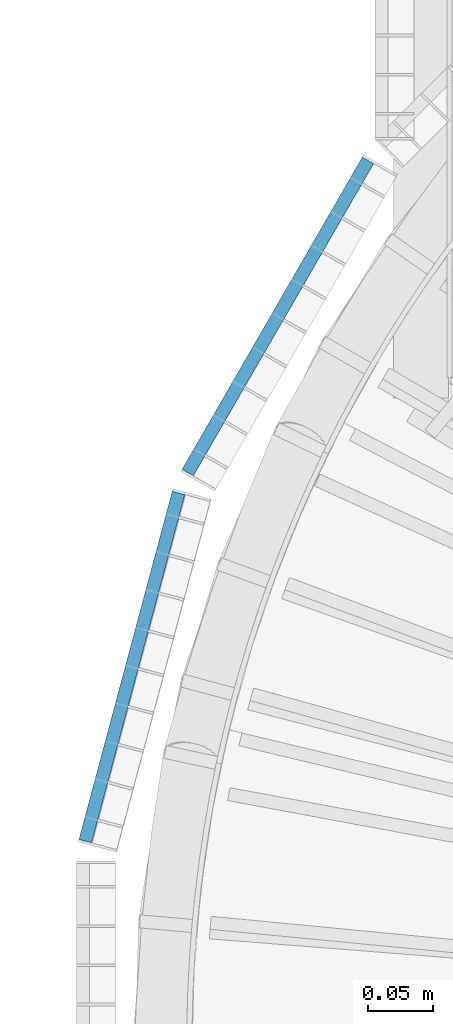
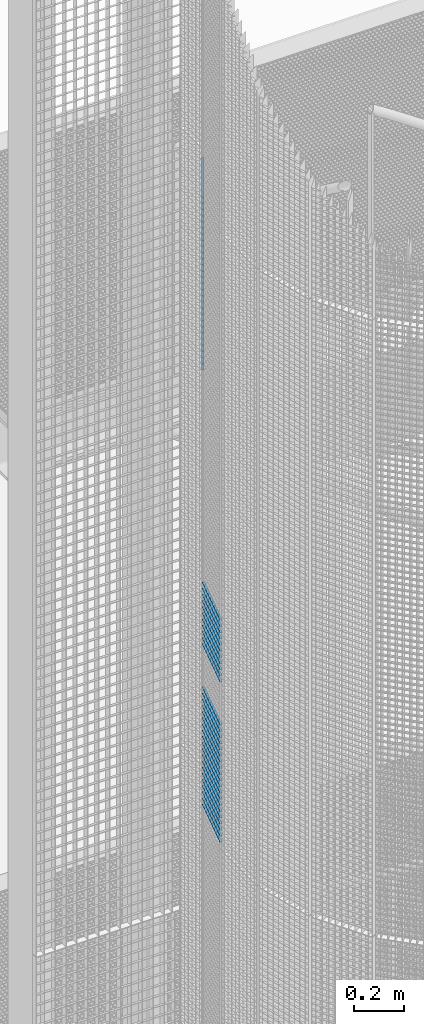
# One storey, part 185 of 1148: 60 beams, 2 elements without a shape of their own.
"""IFC2X3 building model written with IfcOpenShell, lengths in millimetres."""

from ifc_helpers import new_model, si_unit, frame, origin_with_axes, origin_2d_with_axis, place, context, subcontext, project, spatial, rectangle, extrude, material, type_object, element, aggregate, save


model = new_model("IFC2X3")

# Units and contexts
model_context = context("Model", 3, precision=1e-05, world=origin_with_axes())
body_context = subcontext(model_context, "Body", "Model", "MODEL_VIEW")
ifc_project = project(units=[si_unit("LENGTHUNIT", "METRE", prefix="MILLI"), si_unit("AREAUNIT", "SQUARE_METRE"), si_unit("VOLUMEUNIT", "CUBIC_METRE"), si_unit("MASSUNIT", "GRAM", prefix="KILO"), si_unit("TIMEUNIT", "SECOND"), si_unit("PLANEANGLEUNIT", "RADIAN"), si_unit("SOLIDANGLEUNIT", "STERADIAN"), si_unit("THERMODYNAMICTEMPERATUREUNIT", "DEGREE_CELSIUS"), si_unit("LUMINOUSINTENSITYUNIT", "LUMEN")], contexts=[model_context])

# Site, building, storey
site_placement = place(None, origin_with_axes())
site = spatial("IfcSite", under=ifc_project, at=site_placement, Name="Undefined", CompositionType="ELEMENT")
building_placement = place(site_placement, origin_with_axes())
building = spatial("IfcBuilding", under=site, at=building_placement, Name="Undefined", CompositionType="ELEMENT")
storey_placement = place(building_placement, origin_with_axes())
storey = spatial("IfcBuildingStorey", under=building, at=storey_placement, Name="Undefined", CompositionType="ELEMENT", Elevation=0.0)

# Assembly, beams
assembly_1_placement = place(storey_placement, origin_with_axes())
assembly_1 = element("IfcElementAssembly", 1, at=assembly_1_placement, inside=storey, Name="BORDURE", AssemblyPlace="NOTDEFINED", PredefinedType="NOTDEFINED")
ifc_material = material(Name="STEEL/S235JR")
beam_type = type_object("IfcBeamType", Name="PL2*10", PredefinedType="NOTDEFINED")
beam_1_placement = place(assembly_1_placement, frame((-1040.30888419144, 421.618038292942, 12600.0), z_axis=(-0.965925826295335, 0.258819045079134, 0.0), x_axis=(-0.258819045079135, -0.965925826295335, 0.0)))
beam_1 = element("IfcBeam", 2, at=beam_1_placement, type_object=beam_type, material=ifc_material, Name="ENTRETOISE", context=body_context, shape_type="SweptSolid", body=[
    extrude(rectangle(XDim=2.0, YDim=10.0, at=origin_2d_with_axis()), frame((275.999999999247, 9.09494701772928e-13, 1.53210777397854e-14), z_axis=(-1.0, 0.0, 0.0), x_axis=(0.0, -1.0, 0.0)), (0.0, 0.0, 1.0), 276.0),
])
beam_2_placement = place(assembly_1_placement, frame((-1040.30888419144, 421.618038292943, 12810.0), z_axis=(-0.965925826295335, 0.258819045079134, 0.0), x_axis=(-0.258819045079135, -0.965925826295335, 0.0)))
beam_2 = element("IfcBeam", 3, at=beam_2_placement, type_object=beam_type, material=ifc_material, Name="ENTRETOISE", context=body_context, shape_type="SweptSolid", body=[
    extrude(rectangle(XDim=2.0, YDim=10.0, at=origin_2d_with_axis()), frame((275.999999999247, 9.09494701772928e-13, 1.53210777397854e-14), z_axis=(-1.0, 0.0, 0.0), x_axis=(0.0, -1.0, 0.0)), (0.0, 0.0, 1.0), 276.0),
])
beam_3_placement = place(assembly_1_placement, frame((-1040.30888419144, 421.618038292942, 12570.0), z_axis=(-0.965925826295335, 0.258819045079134, 0.0), x_axis=(-0.258819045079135, -0.965925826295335, 0.0)))
beam_3 = element("IfcBeam", 4, at=beam_3_placement, type_object=beam_type, material=ifc_material, Name="ENTRETOISE", context=body_context, shape_type="SweptSolid", body=[
    extrude(rectangle(XDim=2.0, YDim=10.0, at=origin_2d_with_axis()), frame((275.999999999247, 9.09494701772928e-13, 1.53210777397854e-14), z_axis=(-1.0, 0.0, 0.0), x_axis=(0.0, -1.0, 0.0)), (0.0, 0.0, 1.0), 276.0),
])
beam_4_placement = place(assembly_1_placement, frame((-1040.30888419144, 421.618038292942, 12540.0), z_axis=(-0.965925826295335, 0.258819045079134, 0.0), x_axis=(-0.258819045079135, -0.965925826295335, 0.0)))
beam_4 = element("IfcBeam", 5, at=beam_4_placement, type_object=beam_type, material=ifc_material, Name="ENTRETOISE", context=body_context, shape_type="SweptSolid", body=[
    extrude(rectangle(XDim=2.0, YDim=10.0, at=origin_2d_with_axis()), frame((275.999999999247, 9.09494701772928e-13, 1.53210777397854e-14), z_axis=(-1.0, 0.0, 0.0), x_axis=(0.0, -1.0, 0.0)), (0.0, 0.0, 1.0), 276.0),
])
beam_5_placement = place(assembly_1_placement, frame((-1040.30888419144, 421.618038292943, 12840.0), z_axis=(-0.965925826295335, 0.258819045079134, 0.0), x_axis=(-0.258819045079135, -0.965925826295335, 0.0)))
beam_5 = element("IfcBeam", 6, at=beam_5_placement, type_object=beam_type, material=ifc_material, Name="ENTRETOISE", context=body_context, shape_type="SweptSolid", body=[
    extrude(rectangle(XDim=2.0, YDim=10.0, at=origin_2d_with_axis()), frame((275.999999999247, 9.09494701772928e-13, 1.53210777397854e-14), z_axis=(-1.0, 0.0, 0.0), x_axis=(0.0, -1.0, 0.0)), (0.0, 0.0, 1.0), 276.0),
])
beam_6_placement = place(assembly_1_placement, frame((-1040.30888419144, 421.618038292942, 12510.0), z_axis=(-0.965925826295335, 0.258819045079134, 0.0), x_axis=(-0.258819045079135, -0.965925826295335, 0.0)))
beam_6 = element("IfcBeam", 7, at=beam_6_placement, type_object=beam_type, material=ifc_material, Name="ENTRETOISE", context=body_context, shape_type="SweptSolid", body=[
    extrude(rectangle(XDim=2.0, YDim=10.0, at=origin_2d_with_axis()), frame((275.999999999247, 9.09494701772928e-13, 1.53210777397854e-14), z_axis=(-1.0, 0.0, 0.0), x_axis=(0.0, -1.0, 0.0)), (0.0, 0.0, 1.0), 276.0),
])
beam_7_placement = place(assembly_1_placement, frame((-1040.30888419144, 421.618038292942, 12480.0), z_axis=(-0.965925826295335, 0.258819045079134, 0.0), x_axis=(-0.258819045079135, -0.965925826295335, 0.0)))
beam_7 = element("IfcBeam", 8, at=beam_7_placement, type_object=beam_type, material=ifc_material, Name="ENTRETOISE", context=body_context, shape_type="SweptSolid", body=[
    extrude(rectangle(XDim=2.0, YDim=10.0, at=origin_2d_with_axis()), frame((275.999999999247, 9.09494701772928e-13, 1.53210777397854e-14), z_axis=(-1.0, 0.0, 0.0), x_axis=(0.0, -1.0, 0.0)), (0.0, 0.0, 1.0), 276.0),
])
beam_8_placement = place(assembly_1_placement, frame((-1040.30888419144, 421.618038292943, 12870.0), z_axis=(-0.965925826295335, 0.258819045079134, 0.0), x_axis=(-0.258819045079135, -0.965925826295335, 0.0)))
beam_8 = element("IfcBeam", 9, at=beam_8_placement, type_object=beam_type, material=ifc_material, Name="ENTRETOISE", context=body_context, shape_type="SweptSolid", body=[
    extrude(rectangle(XDim=2.0, YDim=10.0, at=origin_2d_with_axis()), frame((275.999999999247, 9.09494701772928e-13, 1.53210777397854e-14), z_axis=(-1.0, 0.0, 0.0), x_axis=(0.0, -1.0, 0.0)), (0.0, 0.0, 1.0), 276.0),
])
beam_9_placement = place(assembly_1_placement, frame((-1040.30888419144, 421.618038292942, 12450.0), z_axis=(-0.965925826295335, 0.258819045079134, 0.0), x_axis=(-0.258819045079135, -0.965925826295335, 0.0)))
beam_9 = element("IfcBeam", 10, at=beam_9_placement, type_object=beam_type, material=ifc_material, Name="ENTRETOISE", context=body_context, shape_type="SweptSolid", body=[
    extrude(rectangle(XDim=2.0, YDim=10.0, at=origin_2d_with_axis()), frame((275.999999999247, 9.09494701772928e-13, 1.53210777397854e-14), z_axis=(-1.0, 0.0, 0.0), x_axis=(0.0, -1.0, 0.0)), (0.0, 0.0, 1.0), 276.0),
])
beam_10_placement = place(assembly_1_placement, frame((-1040.30888419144, 421.618038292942, 12420.0), z_axis=(-0.965925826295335, 0.258819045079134, 0.0), x_axis=(-0.258819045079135, -0.965925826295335, 0.0)))
beam_10 = element("IfcBeam", 11, at=beam_10_placement, type_object=beam_type, material=ifc_material, Name="ENTRETOISE", context=body_context, shape_type="SweptSolid", body=[
    extrude(rectangle(XDim=2.0, YDim=10.0, at=origin_2d_with_axis()), frame((275.999999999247, 9.09494701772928e-13, 1.53210777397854e-14), z_axis=(-1.0, 0.0, 0.0), x_axis=(0.0, -1.0, 0.0)), (0.0, 0.0, 1.0), 276.0),
])
beam_11_placement = place(assembly_1_placement, frame((-1040.30888419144, 421.618038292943, 12900.0), z_axis=(-0.965925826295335, 0.258819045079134, 0.0), x_axis=(-0.258819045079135, -0.965925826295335, 0.0)))
beam_11 = element("IfcBeam", 12, at=beam_11_placement, type_object=beam_type, material=ifc_material, Name="ENTRETOISE", context=body_context, shape_type="SweptSolid", body=[
    extrude(rectangle(XDim=2.0, YDim=10.0, at=origin_2d_with_axis()), frame((275.999999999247, 9.09494701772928e-13, 1.53210777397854e-14), z_axis=(-1.0, 0.0, 0.0), x_axis=(0.0, -1.0, 0.0)), (0.0, 0.0, 1.0), 276.0),
])
beam_12_placement = place(assembly_1_placement, frame((-1040.30888419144, 421.618038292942, 12390.0), z_axis=(-0.965925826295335, 0.258819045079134, 0.0), x_axis=(-0.258819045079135, -0.965925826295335, 0.0)))
beam_12 = element("IfcBeam", 13, at=beam_12_placement, type_object=beam_type, material=ifc_material, Name="ENTRETOISE", context=body_context, shape_type="SweptSolid", body=[
    extrude(rectangle(XDim=2.0, YDim=10.0, at=origin_2d_with_axis()), frame((275.999999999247, 9.09494701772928e-13, 1.53210777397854e-14), z_axis=(-1.0, 0.0, 0.0), x_axis=(0.0, -1.0, 0.0)), (0.0, 0.0, 1.0), 276.0),
])
beam_13_placement = place(assembly_1_placement, frame((-1040.30888419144, 421.618038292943, 12930.0), z_axis=(-0.965925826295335, 0.258819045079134, 0.0), x_axis=(-0.258819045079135, -0.965925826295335, 0.0)))
beam_13 = element("IfcBeam", 14, at=beam_13_placement, type_object=beam_type, material=ifc_material, Name="ENTRETOISE", context=body_context, shape_type="SweptSolid", body=[
    extrude(rectangle(XDim=2.0, YDim=10.0, at=origin_2d_with_axis()), frame((275.999999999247, 9.09494701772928e-13, 1.53210777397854e-14), z_axis=(-1.0, 0.0, 0.0), x_axis=(0.0, -1.0, 0.0)), (0.0, 0.0, 1.0), 276.0),
])
beam_14_placement = place(assembly_1_placement, frame((-1040.30888419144, 421.618038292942, 12360.0), z_axis=(-0.965925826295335, 0.258819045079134, 0.0), x_axis=(-0.258819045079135, -0.965925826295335, 0.0)))
beam_14 = element("IfcBeam", 15, at=beam_14_placement, type_object=beam_type, material=ifc_material, Name="ENTRETOISE", context=body_context, shape_type="SweptSolid", body=[
    extrude(rectangle(XDim=2.0, YDim=10.0, at=origin_2d_with_axis()), frame((275.999999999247, 9.09494701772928e-13, 1.53210777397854e-14), z_axis=(-1.0, 0.0, 0.0), x_axis=(0.0, -1.0, 0.0)), (0.0, 0.0, 1.0), 276.0),
])
beam_15_placement = place(assembly_1_placement, frame((-1040.30888419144, 421.618038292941, 12330.0), z_axis=(-0.965925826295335, 0.258819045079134, 0.0), x_axis=(-0.258819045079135, -0.965925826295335, 0.0)))
beam_15 = element("IfcBeam", 16, at=beam_15_placement, type_object=beam_type, material=ifc_material, Name="ENTRETOISE", context=body_context, shape_type="SweptSolid", body=[
    extrude(rectangle(XDim=2.0, YDim=10.0, at=origin_2d_with_axis()), frame((275.999999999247, 9.09494701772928e-13, 1.53210777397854e-14), z_axis=(-1.0, 0.0, 0.0), x_axis=(0.0, -1.0, 0.0)), (0.0, 0.0, 1.0), 276.0),
])
beam_16_placement = place(assembly_1_placement, frame((-1040.30888419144, 421.618038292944, 12960.0), z_axis=(-0.965925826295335, 0.258819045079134, 0.0), x_axis=(-0.258819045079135, -0.965925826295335, 0.0)))
beam_16 = element("IfcBeam", 17, at=beam_16_placement, type_object=beam_type, material=ifc_material, Name="ENTRETOISE", context=body_context, shape_type="SweptSolid", body=[
    extrude(rectangle(XDim=2.0, YDim=10.0, at=origin_2d_with_axis()), frame((275.999999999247, 9.09494701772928e-13, 1.53210777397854e-14), z_axis=(-1.0, 0.0, 0.0), x_axis=(0.0, -1.0, 0.0)), (0.0, 0.0, 1.0), 276.0),
])
beam_17_placement = place(assembly_1_placement, frame((-1040.30888419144, 421.618038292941, 12300.0), z_axis=(-0.965925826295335, 0.258819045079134, 0.0), x_axis=(-0.258819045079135, -0.965925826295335, 0.0)))
beam_17 = element("IfcBeam", 18, at=beam_17_placement, type_object=beam_type, material=ifc_material, Name="ENTRETOISE", context=body_context, shape_type="SweptSolid", body=[
    extrude(rectangle(XDim=2.0, YDim=10.0, at=origin_2d_with_axis()), frame((275.999999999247, 9.09494701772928e-13, 1.53210777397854e-14), z_axis=(-1.0, 0.0, 0.0), x_axis=(0.0, -1.0, 0.0)), (0.0, 0.0, 1.0), 276.0),
])
beam_18_placement = place(assembly_1_placement, frame((-1040.30888419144, 421.618038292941, 12270.0), z_axis=(-0.965925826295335, 0.258819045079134, 0.0), x_axis=(-0.258819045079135, -0.965925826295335, 0.0)))
beam_18 = element("IfcBeam", 19, at=beam_18_placement, type_object=beam_type, material=ifc_material, Name="ENTRETOISE", context=body_context, shape_type="SweptSolid", body=[
    extrude(rectangle(XDim=2.0, YDim=10.0, at=origin_2d_with_axis()), frame((275.999999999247, 9.09494701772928e-13, 1.53210777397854e-14), z_axis=(-1.0, 0.0, 0.0), x_axis=(0.0, -1.0, 0.0)), (0.0, 0.0, 1.0), 276.0),
])
beam_19_placement = place(assembly_1_placement, frame((-1040.30888419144, 421.618038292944, 12990.0), z_axis=(-0.965925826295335, 0.258819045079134, 0.0), x_axis=(-0.258819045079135, -0.965925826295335, 0.0)))
beam_19 = element("IfcBeam", 20, at=beam_19_placement, type_object=beam_type, material=ifc_material, Name="ENTRETOISE", context=body_context, shape_type="SweptSolid", body=[
    extrude(rectangle(XDim=2.0, YDim=10.0, at=origin_2d_with_axis()), frame((275.999999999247, 9.09494701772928e-13, 1.53210777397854e-14), z_axis=(-1.0, 0.0, 0.0), x_axis=(0.0, -1.0, 0.0)), (0.0, 0.0, 1.0), 276.0),
])
beam_20_placement = place(assembly_1_placement, frame((-1040.30888419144, 421.618038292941, 12240.0), z_axis=(-0.965925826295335, 0.258819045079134, 0.0), x_axis=(-0.258819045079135, -0.965925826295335, 0.0)))
beam_20 = element("IfcBeam", 21, at=beam_20_placement, type_object=beam_type, material=ifc_material, Name="ENTRETOISE", context=body_context, shape_type="SweptSolid", body=[
    extrude(rectangle(XDim=2.0, YDim=10.0, at=origin_2d_with_axis()), frame((275.999999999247, 9.09494701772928e-13, 1.53210777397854e-14), z_axis=(-1.0, 0.0, 0.0), x_axis=(0.0, -1.0, 0.0)), (0.0, 0.0, 1.0), 276.0),
])
beam_21_placement = place(assembly_1_placement, frame((-1040.30888419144, 421.618038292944, 13020.0), z_axis=(-0.965925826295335, 0.258819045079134, 0.0), x_axis=(-0.258819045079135, -0.965925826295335, 0.0)))
beam_21 = element("IfcBeam", 22, at=beam_21_placement, type_object=beam_type, material=ifc_material, Name="ENTRETOISE", context=body_context, shape_type="SweptSolid", body=[
    extrude(rectangle(XDim=2.0, YDim=10.0, at=origin_2d_with_axis()), frame((275.999999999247, 9.09494701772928e-13, 1.53210777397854e-14), z_axis=(-1.0, 0.0, 0.0), x_axis=(0.0, -1.0, 0.0)), (0.0, 0.0, 1.0), 276.0),
])
beam_22_placement = place(assembly_1_placement, frame((-1040.30888419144, 421.618038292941, 12210.0), z_axis=(-0.965925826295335, 0.258819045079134, 0.0), x_axis=(-0.258819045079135, -0.965925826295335, 0.0)))
beam_22 = element("IfcBeam", 23, at=beam_22_placement, type_object=beam_type, material=ifc_material, Name="ENTRETOISE", context=body_context, shape_type="SweptSolid", body=[
    extrude(rectangle(XDim=2.0, YDim=10.0, at=origin_2d_with_axis()), frame((275.999999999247, 9.09494701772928e-13, 1.53210777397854e-14), z_axis=(-1.0, 0.0, 0.0), x_axis=(0.0, -1.0, 0.0)), (0.0, 0.0, 1.0), 276.0),
])
beam_23_placement = place(assembly_1_placement, frame((-1040.30888419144, 421.618038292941, 12180.0), z_axis=(-0.965925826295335, 0.258819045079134, 0.0), x_axis=(-0.258819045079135, -0.965925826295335, 0.0)))
beam_23 = element("IfcBeam", 24, at=beam_23_placement, type_object=beam_type, material=ifc_material, Name="ENTRETOISE", context=body_context, shape_type="SweptSolid", body=[
    extrude(rectangle(XDim=2.0, YDim=10.0, at=origin_2d_with_axis()), frame((275.999999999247, 9.09494701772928e-13, 1.53210777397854e-14), z_axis=(-1.0, 0.0, 0.0), x_axis=(0.0, -1.0, 0.0)), (0.0, 0.0, 1.0), 276.0),
])
beam_24_placement = place(assembly_1_placement, frame((-1040.30888419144, 421.618038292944, 13050.0), z_axis=(-0.965925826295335, 0.258819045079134, 0.0), x_axis=(-0.258819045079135, -0.965925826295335, 0.0)))
beam_24 = element("IfcBeam", 25, at=beam_24_placement, type_object=beam_type, material=ifc_material, Name="ENTRETOISE", context=body_context, shape_type="SweptSolid", body=[
    extrude(rectangle(XDim=2.0, YDim=10.0, at=origin_2d_with_axis()), frame((275.999999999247, 9.09494701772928e-13, 1.53210777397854e-14), z_axis=(-1.0, 0.0, 0.0), x_axis=(0.0, -1.0, 0.0)), (0.0, 0.0, 1.0), 276.0),
])
beam_25_placement = place(assembly_1_placement, frame((-1040.30888419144, 421.618038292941, 12150.0), z_axis=(-0.965925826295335, 0.258819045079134, 0.0), x_axis=(-0.258819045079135, -0.965925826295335, 0.0)))
beam_25 = element("IfcBeam", 26, at=beam_25_placement, type_object=beam_type, material=ifc_material, Name="ENTRETOISE", context=body_context, shape_type="SweptSolid", body=[
    extrude(rectangle(XDim=2.0, YDim=10.0, at=origin_2d_with_axis()), frame((275.999999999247, 9.09494701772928e-13, 1.53210777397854e-14), z_axis=(-1.0, 0.0, 0.0), x_axis=(0.0, -1.0, 0.0)), (0.0, 0.0, 1.0), 276.0),
])
beam_26_placement = place(assembly_1_placement, frame((-1040.30888419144, 421.618038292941, 12120.0), z_axis=(-0.965925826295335, 0.258819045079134, 0.0), x_axis=(-0.258819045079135, -0.965925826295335, 0.0)))
beam_26 = element("IfcBeam", 27, at=beam_26_placement, type_object=beam_type, material=ifc_material, Name="ENTRETOISE", context=body_context, shape_type="SweptSolid", body=[
    extrude(rectangle(XDim=2.0, YDim=10.0, at=origin_2d_with_axis()), frame((275.999999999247, 9.09494701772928e-13, 1.53210777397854e-14), z_axis=(-1.0, 0.0, 0.0), x_axis=(0.0, -1.0, 0.0)), (0.0, 0.0, 1.0), 276.0),
])
beam_27_placement = place(assembly_1_placement, frame((-1040.30888419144, 421.618038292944, 13080.0), z_axis=(-0.965925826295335, 0.258819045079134, 0.0), x_axis=(-0.258819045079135, -0.965925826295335, 0.0)))
beam_27 = element("IfcBeam", 28, at=beam_27_placement, type_object=beam_type, material=ifc_material, Name="ENTRETOISE", context=body_context, shape_type="SweptSolid", body=[
    extrude(rectangle(XDim=2.0, YDim=10.0, at=origin_2d_with_axis()), frame((275.999999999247, 9.09494701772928e-13, 1.53210777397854e-14), z_axis=(-1.0, 0.0, 0.0), x_axis=(0.0, -1.0, 0.0)), (0.0, 0.0, 1.0), 276.0),
])
beam_28_placement = place(assembly_1_placement, frame((-1040.30888419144, 421.618038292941, 12090.0), z_axis=(-0.965925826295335, 0.258819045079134, 0.0), x_axis=(-0.258819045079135, -0.965925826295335, 0.0)))
beam_28 = element("IfcBeam", 29, at=beam_28_placement, type_object=beam_type, material=ifc_material, Name="ENTRETOISE", context=body_context, shape_type="SweptSolid", body=[
    extrude(rectangle(XDim=2.0, YDim=10.0, at=origin_2d_with_axis()), frame((275.999999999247, 9.09494701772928e-13, 1.53210777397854e-14), z_axis=(-1.0, 0.0, 0.0), x_axis=(0.0, -1.0, 0.0)), (0.0, 0.0, 1.0), 276.0),
])
beam_29_placement = place(assembly_1_placement, frame((-1040.30888419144, 421.618038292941, 12060.0), z_axis=(-0.965925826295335, 0.258819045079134, 0.0), x_axis=(-0.258819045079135, -0.965925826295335, 0.0)))
beam_29 = element("IfcBeam", 30, at=beam_29_placement, type_object=beam_type, material=ifc_material, Name="ENTRETOISE", context=body_context, shape_type="SweptSolid", body=[
    extrude(rectangle(XDim=2.0, YDim=10.0, at=origin_2d_with_axis()), frame((275.999999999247, 9.09494701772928e-13, 1.53210777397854e-14), z_axis=(-1.0, 0.0, 0.0), x_axis=(0.0, -1.0, 0.0)), (0.0, 0.0, 1.0), 276.0),
])
beam_30_placement = place(assembly_1_placement, frame((-1040.30888419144, 421.618038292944, 13110.0), z_axis=(-0.965925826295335, 0.258819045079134, 0.0), x_axis=(-0.258819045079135, -0.965925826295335, 0.0)))
beam_30 = element("IfcBeam", 31, at=beam_30_placement, type_object=beam_type, material=ifc_material, Name="ENTRETOISE", context=body_context, shape_type="SweptSolid", body=[
    extrude(rectangle(XDim=2.0, YDim=10.0, at=origin_2d_with_axis()), frame((275.999999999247, 9.09494701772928e-13, 1.53210777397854e-14), z_axis=(-1.0, 0.0, 0.0), x_axis=(0.0, -1.0, 0.0)), (0.0, 0.0, 1.0), 276.0),
])
beam_31_placement = place(assembly_1_placement, frame((-1040.30888419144, 421.618038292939, 12030.0), z_axis=(-0.965925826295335, 0.258819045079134, 0.0), x_axis=(-0.258819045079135, -0.965925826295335, 0.0)))
beam_31 = element("IfcBeam", 32, at=beam_31_placement, type_object=beam_type, material=ifc_material, Name="ENTRETOISE", context=body_context, shape_type="SweptSolid", body=[
    extrude(rectangle(XDim=2.0, YDim=10.0, at=origin_2d_with_axis()), frame((275.999999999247, 9.09494701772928e-13, 1.53210777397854e-14), z_axis=(-1.0, 0.0, 0.0), x_axis=(0.0, -1.0, 0.0)), (0.0, 0.0, 1.0), 276.0),
])
aggregate(assembly_1, [beam_1, beam_2, beam_3, beam_4, beam_5, beam_6, beam_7, beam_8, beam_9, beam_10, beam_11, beam_12, beam_13, beam_14, beam_15, beam_16, beam_17, beam_18, beam_19, beam_20, beam_21, beam_22, beam_23, beam_24, beam_25, beam_26, beam_27, beam_28, beam_29, beam_30, beam_31])

assembly_2_placement = place(storey_placement, origin_with_axes())
assembly_2 = element("IfcElementAssembly", 33, at=assembly_2_placement, inside=storey, Name="BORDURE", AssemblyPlace="NOTDEFINED", PredefinedType="NOTDEFINED")
beam_32_placement = place(assembly_2_placement, frame((-895.303964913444, 676.248044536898, 14970.0), z_axis=(-0.866025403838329, 0.499999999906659, 0.0), x_axis=(-0.49999999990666, -0.866025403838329, 0.0)))
beam_32 = element("IfcBeam", 34, at=beam_32_placement, type_object=beam_type, material=ifc_material, Name="ENTRETOISE", context=body_context, shape_type="SweptSolid", body=[
    extrude(rectangle(XDim=2.0, YDim=10.0, at=origin_2d_with_axis()), frame((275.999999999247, 9.09494701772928e-13, 1.53210777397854e-14), z_axis=(-1.0, 0.0, 0.0), x_axis=(0.0, -1.0, 0.0)), (0.0, 0.0, 1.0), 276.0),
])
beam_33_placement = place(assembly_2_placement, frame((-895.303964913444, 676.248044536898, 14940.0), z_axis=(-0.866025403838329, 0.499999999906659, 0.0), x_axis=(-0.49999999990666, -0.866025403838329, 0.0)))
beam_33 = element("IfcBeam", 35, at=beam_33_placement, type_object=beam_type, material=ifc_material, Name="ENTRETOISE", context=body_context, shape_type="SweptSolid", body=[
    extrude(rectangle(XDim=2.0, YDim=10.0, at=origin_2d_with_axis()), frame((275.999999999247, 9.09494701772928e-13, 1.53210777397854e-14), z_axis=(-1.0, 0.0, 0.0), x_axis=(0.0, -1.0, 0.0)), (0.0, 0.0, 1.0), 276.0),
])
beam_34_placement = place(assembly_2_placement, frame((-895.303964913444, 676.248044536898, 14910.0), z_axis=(-0.866025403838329, 0.499999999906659, 0.0), x_axis=(-0.49999999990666, -0.866025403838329, 0.0)))
beam_34 = element("IfcBeam", 36, at=beam_34_placement, type_object=beam_type, material=ifc_material, Name="ENTRETOISE", context=body_context, shape_type="SweptSolid", body=[
    extrude(rectangle(XDim=2.0, YDim=10.0, at=origin_2d_with_axis()), frame((275.999999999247, 9.09494701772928e-13, 1.53210777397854e-14), z_axis=(-1.0, 0.0, 0.0), x_axis=(0.0, -1.0, 0.0)), (0.0, 0.0, 1.0), 276.0),
])
beam_35_placement = place(assembly_2_placement, frame((-895.303964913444, 676.248044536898, 14880.0), z_axis=(-0.866025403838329, 0.499999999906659, 0.0), x_axis=(-0.49999999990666, -0.866025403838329, 0.0)))
beam_35 = element("IfcBeam", 37, at=beam_35_placement, type_object=beam_type, material=ifc_material, Name="ENTRETOISE", context=body_context, shape_type="SweptSolid", body=[
    extrude(rectangle(XDim=2.0, YDim=10.0, at=origin_2d_with_axis()), frame((275.999999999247, 9.09494701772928e-13, 1.53210777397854e-14), z_axis=(-1.0, 0.0, 0.0), x_axis=(0.0, -1.0, 0.0)), (0.0, 0.0, 1.0), 276.0),
])
beam_36_placement = place(assembly_2_placement, frame((-895.303964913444, 676.248044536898, 14850.0), z_axis=(-0.866025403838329, 0.499999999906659, 0.0), x_axis=(-0.49999999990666, -0.866025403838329, 0.0)))
beam_36 = element("IfcBeam", 38, at=beam_36_placement, type_object=beam_type, material=ifc_material, Name="ENTRETOISE", context=body_context, shape_type="SweptSolid", body=[
    extrude(rectangle(XDim=2.0, YDim=10.0, at=origin_2d_with_axis()), frame((275.999999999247, 9.09494701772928e-13, 1.53210777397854e-14), z_axis=(-1.0, 0.0, 0.0), x_axis=(0.0, -1.0, 0.0)), (0.0, 0.0, 1.0), 276.0),
])
beam_37_placement = place(assembly_2_placement, frame((-895.303964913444, 676.248044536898, 14820.0), z_axis=(-0.866025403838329, 0.499999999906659, 0.0), x_axis=(-0.49999999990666, -0.866025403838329, 0.0)))
beam_37 = element("IfcBeam", 39, at=beam_37_placement, type_object=beam_type, material=ifc_material, Name="ENTRETOISE", context=body_context, shape_type="SweptSolid", body=[
    extrude(rectangle(XDim=2.0, YDim=10.0, at=origin_2d_with_axis()), frame((275.999999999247, 9.09494701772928e-13, 1.53210777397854e-14), z_axis=(-1.0, 0.0, 0.0), x_axis=(0.0, -1.0, 0.0)), (0.0, 0.0, 1.0), 276.0),
])
beam_38_placement = place(assembly_2_placement, frame((-895.303964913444, 676.248044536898, 14790.0), z_axis=(-0.866025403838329, 0.499999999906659, 0.0), x_axis=(-0.49999999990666, -0.866025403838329, 0.0)))
beam_38 = element("IfcBeam", 40, at=beam_38_placement, type_object=beam_type, material=ifc_material, Name="ENTRETOISE", context=body_context, shape_type="SweptSolid", body=[
    extrude(rectangle(XDim=2.0, YDim=10.0, at=origin_2d_with_axis()), frame((275.999999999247, 9.09494701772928e-13, 1.53210777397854e-14), z_axis=(-1.0, 0.0, 0.0), x_axis=(0.0, -1.0, 0.0)), (0.0, 0.0, 1.0), 276.0),
])
beam_39_placement = place(assembly_2_placement, frame((-895.303964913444, 676.248044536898, 14760.0), z_axis=(-0.866025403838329, 0.499999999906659, 0.0), x_axis=(-0.49999999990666, -0.866025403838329, 0.0)))
beam_39 = element("IfcBeam", 41, at=beam_39_placement, type_object=beam_type, material=ifc_material, Name="ENTRETOISE", context=body_context, shape_type="SweptSolid", body=[
    extrude(rectangle(XDim=2.0, YDim=10.0, at=origin_2d_with_axis()), frame((275.999999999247, 9.09494701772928e-13, 1.53210777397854e-14), z_axis=(-1.0, 0.0, 0.0), x_axis=(0.0, -1.0, 0.0)), (0.0, 0.0, 1.0), 276.0),
])
beam_40_placement = place(assembly_2_placement, frame((-895.303964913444, 676.248044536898, 14730.0), z_axis=(-0.866025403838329, 0.499999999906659, 0.0), x_axis=(-0.49999999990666, -0.866025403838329, 0.0)))
beam_40 = element("IfcBeam", 42, at=beam_40_placement, type_object=beam_type, material=ifc_material, Name="ENTRETOISE", context=body_context, shape_type="SweptSolid", body=[
    extrude(rectangle(XDim=2.0, YDim=10.0, at=origin_2d_with_axis()), frame((275.999999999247, 9.09494701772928e-13, 1.53210777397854e-14), z_axis=(-1.0, 0.0, 0.0), x_axis=(0.0, -1.0, 0.0)), (0.0, 0.0, 1.0), 276.0),
])
beam_41_placement = place(assembly_2_placement, frame((-895.303964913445, 676.248044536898, 14700.0), z_axis=(-0.866025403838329, 0.499999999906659, 0.0), x_axis=(-0.49999999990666, -0.866025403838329, 0.0)))
beam_41 = element("IfcBeam", 43, at=beam_41_placement, type_object=beam_type, material=ifc_material, Name="ENTRETOISE", context=body_context, shape_type="SweptSolid", body=[
    extrude(rectangle(XDim=2.0, YDim=10.0, at=origin_2d_with_axis()), frame((275.999999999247, 9.09494701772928e-13, 1.53210777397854e-14), z_axis=(-1.0, 0.0, 0.0), x_axis=(0.0, -1.0, 0.0)), (0.0, 0.0, 1.0), 276.0),
])
beam_42_placement = place(assembly_2_placement, frame((-895.303964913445, 676.248044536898, 14670.0), z_axis=(-0.866025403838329, 0.499999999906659, 0.0), x_axis=(-0.49999999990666, -0.866025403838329, 0.0)))
beam_42 = element("IfcBeam", 44, at=beam_42_placement, type_object=beam_type, material=ifc_material, Name="ENTRETOISE", context=body_context, shape_type="SweptSolid", body=[
    extrude(rectangle(XDim=2.0, YDim=10.0, at=origin_2d_with_axis()), frame((275.999999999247, 9.09494701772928e-13, 1.53210777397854e-14), z_axis=(-1.0, 0.0, 0.0), x_axis=(0.0, -1.0, 0.0)), (0.0, 0.0, 1.0), 276.0),
])
beam_43_placement = place(assembly_2_placement, frame((-895.303964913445, 676.248044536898, 14640.0), z_axis=(-0.866025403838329, 0.499999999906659, 0.0), x_axis=(-0.49999999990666, -0.866025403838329, 0.0)))
beam_43 = element("IfcBeam", 45, at=beam_43_placement, type_object=beam_type, material=ifc_material, Name="ENTRETOISE", context=body_context, shape_type="SweptSolid", body=[
    extrude(rectangle(XDim=2.0, YDim=10.0, at=origin_2d_with_axis()), frame((275.999999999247, 9.09494701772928e-13, 1.53210777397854e-14), z_axis=(-1.0, 0.0, 0.0), x_axis=(0.0, -1.0, 0.0)), (0.0, 0.0, 1.0), 276.0),
])
beam_44_placement = place(assembly_2_placement, frame((-895.303964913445, 676.248044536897, 14610.0), z_axis=(-0.866025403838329, 0.499999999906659, 0.0), x_axis=(-0.49999999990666, -0.866025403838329, 0.0)))
beam_44 = element("IfcBeam", 46, at=beam_44_placement, type_object=beam_type, material=ifc_material, Name="ENTRETOISE", context=body_context, shape_type="SweptSolid", body=[
    extrude(rectangle(XDim=2.0, YDim=10.0, at=origin_2d_with_axis()), frame((275.999999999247, 9.09494701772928e-13, 1.53210777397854e-14), z_axis=(-1.0, 0.0, 0.0), x_axis=(0.0, -1.0, 0.0)), (0.0, 0.0, 1.0), 276.0),
])
beam_45_placement = place(assembly_2_placement, frame((-895.303964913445, 676.248044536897, 14580.0), z_axis=(-0.866025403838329, 0.499999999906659, 0.0), x_axis=(-0.49999999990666, -0.866025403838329, 0.0)))
beam_45 = element("IfcBeam", 47, at=beam_45_placement, type_object=beam_type, material=ifc_material, Name="ENTRETOISE", context=body_context, shape_type="SweptSolid", body=[
    extrude(rectangle(XDim=2.0, YDim=10.0, at=origin_2d_with_axis()), frame((275.999999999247, 9.09494701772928e-13, 1.53210777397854e-14), z_axis=(-1.0, 0.0, 0.0), x_axis=(0.0, -1.0, 0.0)), (0.0, 0.0, 1.0), 276.0),
])
beam_46_placement = place(assembly_2_placement, frame((-895.303964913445, 676.248044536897, 14550.0), z_axis=(-0.866025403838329, 0.499999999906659, 0.0), x_axis=(-0.49999999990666, -0.866025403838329, 0.0)))
beam_46 = element("IfcBeam", 48, at=beam_46_placement, type_object=beam_type, material=ifc_material, Name="ENTRETOISE", context=body_context, shape_type="SweptSolid", body=[
    extrude(rectangle(XDim=2.0, YDim=10.0, at=origin_2d_with_axis()), frame((275.999999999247, 9.09494701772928e-13, 1.53210777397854e-14), z_axis=(-1.0, 0.0, 0.0), x_axis=(0.0, -1.0, 0.0)), (0.0, 0.0, 1.0), 276.0),
])
beam_47_placement = place(assembly_2_placement, frame((-895.303964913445, 676.248044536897, 14520.0), z_axis=(-0.866025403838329, 0.499999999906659, 0.0), x_axis=(-0.49999999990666, -0.866025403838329, 0.0)))
beam_47 = element("IfcBeam", 49, at=beam_47_placement, type_object=beam_type, material=ifc_material, Name="ENTRETOISE", context=body_context, shape_type="SweptSolid", body=[
    extrude(rectangle(XDim=2.0, YDim=10.0, at=origin_2d_with_axis()), frame((275.999999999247, 9.09494701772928e-13, 1.53210777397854e-14), z_axis=(-1.0, 0.0, 0.0), x_axis=(0.0, -1.0, 0.0)), (0.0, 0.0, 1.0), 276.0),
])
beam_48_placement = place(assembly_2_placement, frame((-895.303964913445, 676.248044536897, 14490.0), z_axis=(-0.866025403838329, 0.499999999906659, 0.0), x_axis=(-0.49999999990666, -0.866025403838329, 0.0)))
beam_48 = element("IfcBeam", 50, at=beam_48_placement, type_object=beam_type, material=ifc_material, Name="ENTRETOISE", context=body_context, shape_type="SweptSolid", body=[
    extrude(rectangle(XDim=2.0, YDim=10.0, at=origin_2d_with_axis()), frame((275.999999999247, 9.09494701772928e-13, 1.53210777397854e-14), z_axis=(-1.0, 0.0, 0.0), x_axis=(0.0, -1.0, 0.0)), (0.0, 0.0, 1.0), 276.0),
])
beam_49_placement = place(assembly_2_placement, frame((-895.303964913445, 676.248044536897, 14460.0), z_axis=(-0.866025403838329, 0.499999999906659, 0.0), x_axis=(-0.49999999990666, -0.866025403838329, 0.0)))
beam_49 = element("IfcBeam", 51, at=beam_49_placement, type_object=beam_type, material=ifc_material, Name="ENTRETOISE", context=body_context, shape_type="SweptSolid", body=[
    extrude(rectangle(XDim=2.0, YDim=10.0, at=origin_2d_with_axis()), frame((275.999999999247, 9.09494701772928e-13, 1.53210777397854e-14), z_axis=(-1.0, 0.0, 0.0), x_axis=(0.0, -1.0, 0.0)), (0.0, 0.0, 1.0), 276.0),
])
beam_50_placement = place(assembly_2_placement, frame((-895.303964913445, 676.248044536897, 14430.0), z_axis=(-0.866025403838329, 0.499999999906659, 0.0), x_axis=(-0.49999999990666, -0.866025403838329, 0.0)))
beam_50 = element("IfcBeam", 52, at=beam_50_placement, type_object=beam_type, material=ifc_material, Name="ENTRETOISE", context=body_context, shape_type="SweptSolid", body=[
    extrude(rectangle(XDim=2.0, YDim=10.0, at=origin_2d_with_axis()), frame((275.999999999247, 9.09494701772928e-13, 1.53210777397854e-14), z_axis=(-1.0, 0.0, 0.0), x_axis=(0.0, -1.0, 0.0)), (0.0, 0.0, 1.0), 276.0),
])
beam_51_placement = place(assembly_2_placement, frame((-895.303964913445, 676.248044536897, 14400.0), z_axis=(-0.866025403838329, 0.499999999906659, 0.0), x_axis=(-0.49999999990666, -0.866025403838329, 0.0)))
beam_51 = element("IfcBeam", 53, at=beam_51_placement, type_object=beam_type, material=ifc_material, Name="ENTRETOISE", context=body_context, shape_type="SweptSolid", body=[
    extrude(rectangle(XDim=2.0, YDim=10.0, at=origin_2d_with_axis()), frame((275.999999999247, 9.09494701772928e-13, 1.53210777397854e-14), z_axis=(-1.0, 0.0, 0.0), x_axis=(0.0, -1.0, 0.0)), (0.0, 0.0, 1.0), 276.0),
])
beam_52_placement = place(assembly_2_placement, frame((-895.303964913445, 676.248044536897, 14370.0), z_axis=(-0.866025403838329, 0.499999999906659, 0.0), x_axis=(-0.49999999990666, -0.866025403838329, 0.0)))
beam_52 = element("IfcBeam", 54, at=beam_52_placement, type_object=beam_type, material=ifc_material, Name="ENTRETOISE", context=body_context, shape_type="SweptSolid", body=[
    extrude(rectangle(XDim=2.0, YDim=10.0, at=origin_2d_with_axis()), frame((275.999999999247, 9.09494701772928e-13, 1.53210777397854e-14), z_axis=(-1.0, 0.0, 0.0), x_axis=(0.0, -1.0, 0.0)), (0.0, 0.0, 1.0), 276.0),
])
beam_53_placement = place(assembly_2_placement, frame((-895.303964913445, 676.248044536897, 14340.0), z_axis=(-0.866025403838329, 0.499999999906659, 0.0), x_axis=(-0.49999999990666, -0.866025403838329, 0.0)))
beam_53 = element("IfcBeam", 55, at=beam_53_placement, type_object=beam_type, material=ifc_material, Name="ENTRETOISE", context=body_context, shape_type="SweptSolid", body=[
    extrude(rectangle(XDim=2.0, YDim=10.0, at=origin_2d_with_axis()), frame((275.999999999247, 9.09494701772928e-13, 1.53210777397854e-14), z_axis=(-1.0, 0.0, 0.0), x_axis=(0.0, -1.0, 0.0)), (0.0, 0.0, 1.0), 276.0),
])
beam_54_placement = place(assembly_2_placement, frame((-895.303964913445, 676.248044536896, 14310.0), z_axis=(-0.866025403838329, 0.499999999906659, 0.0), x_axis=(-0.49999999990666, -0.866025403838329, 0.0)))
beam_54 = element("IfcBeam", 56, at=beam_54_placement, type_object=beam_type, material=ifc_material, Name="ENTRETOISE", context=body_context, shape_type="SweptSolid", body=[
    extrude(rectangle(XDim=2.0, YDim=10.0, at=origin_2d_with_axis()), frame((275.999999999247, 9.09494701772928e-13, 1.53210777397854e-14), z_axis=(-1.0, 0.0, 0.0), x_axis=(0.0, -1.0, 0.0)), (0.0, 0.0, 1.0), 276.0),
])
beam_55_placement = place(assembly_2_placement, frame((-895.303964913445, 676.248044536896, 14280.0), z_axis=(-0.866025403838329, 0.499999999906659, 0.0), x_axis=(-0.49999999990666, -0.866025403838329, 0.0)))
beam_55 = element("IfcBeam", 57, at=beam_55_placement, type_object=beam_type, material=ifc_material, Name="ENTRETOISE", context=body_context, shape_type="SweptSolid", body=[
    extrude(rectangle(XDim=2.0, YDim=10.0, at=origin_2d_with_axis()), frame((275.999999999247, 9.09494701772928e-13, 1.53210777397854e-14), z_axis=(-1.0, 0.0, 0.0), x_axis=(0.0, -1.0, 0.0)), (0.0, 0.0, 1.0), 276.0),
])
beam_56_placement = place(assembly_2_placement, frame((-895.303964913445, 676.248044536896, 14250.0), z_axis=(-0.866025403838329, 0.499999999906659, 0.0), x_axis=(-0.49999999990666, -0.866025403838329, 0.0)))
beam_56 = element("IfcBeam", 58, at=beam_56_placement, type_object=beam_type, material=ifc_material, Name="ENTRETOISE", context=body_context, shape_type="SweptSolid", body=[
    extrude(rectangle(XDim=2.0, YDim=10.0, at=origin_2d_with_axis()), frame((275.999999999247, 9.09494701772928e-13, 1.53210777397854e-14), z_axis=(-1.0, 0.0, 0.0), x_axis=(0.0, -1.0, 0.0)), (0.0, 0.0, 1.0), 276.0),
])
beam_57_placement = place(assembly_2_placement, frame((-895.303964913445, 676.248044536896, 14220.0), z_axis=(-0.866025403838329, 0.499999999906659, 0.0), x_axis=(-0.49999999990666, -0.866025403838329, 0.0)))
beam_57 = element("IfcBeam", 59, at=beam_57_placement, type_object=beam_type, material=ifc_material, Name="ENTRETOISE", context=body_context, shape_type="SweptSolid", body=[
    extrude(rectangle(XDim=2.0, YDim=10.0, at=origin_2d_with_axis()), frame((275.999999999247, 9.09494701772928e-13, 1.53210777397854e-14), z_axis=(-1.0, 0.0, 0.0), x_axis=(0.0, -1.0, 0.0)), (0.0, 0.0, 1.0), 276.0),
])
beam_58_placement = place(assembly_2_placement, frame((-895.303964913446, 676.248044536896, 14190.0), z_axis=(-0.866025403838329, 0.499999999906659, 0.0), x_axis=(-0.49999999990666, -0.866025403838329, 0.0)))
beam_58 = element("IfcBeam", 60, at=beam_58_placement, type_object=beam_type, material=ifc_material, Name="ENTRETOISE", context=body_context, shape_type="SweptSolid", body=[
    extrude(rectangle(XDim=2.0, YDim=10.0, at=origin_2d_with_axis()), frame((275.999999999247, 9.09494701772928e-13, 1.53210777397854e-14), z_axis=(-1.0, 0.0, 0.0), x_axis=(0.0, -1.0, 0.0)), (0.0, 0.0, 1.0), 276.0),
])
beam_59_placement = place(assembly_2_placement, frame((-895.303964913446, 676.248044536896, 14160.0), z_axis=(-0.866025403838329, 0.499999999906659, 0.0), x_axis=(-0.49999999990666, -0.866025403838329, 0.0)))
beam_59 = element("IfcBeam", 61, at=beam_59_placement, type_object=beam_type, material=ifc_material, Name="ENTRETOISE", context=body_context, shape_type="SweptSolid", body=[
    extrude(rectangle(XDim=2.0, YDim=10.0, at=origin_2d_with_axis()), frame((275.999999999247, 9.09494701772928e-13, 1.53210777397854e-14), z_axis=(-1.0, 0.0, 0.0), x_axis=(0.0, -1.0, 0.0)), (0.0, 0.0, 1.0), 276.0),
])
beam_60_placement = place(assembly_2_placement, frame((-895.303964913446, 676.248044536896, 14130.0), z_axis=(-0.866025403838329, 0.499999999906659, 0.0), x_axis=(-0.49999999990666, -0.866025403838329, 0.0)))
beam_60 = element("IfcBeam", 62, at=beam_60_placement, type_object=beam_type, material=ifc_material, Name="ENTRETOISE", context=body_context, shape_type="SweptSolid", body=[
    extrude(rectangle(XDim=2.0, YDim=10.0, at=origin_2d_with_axis()), frame((275.999999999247, 9.09494701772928e-13, 1.53210777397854e-14), z_axis=(-1.0, 0.0, 0.0), x_axis=(0.0, -1.0, 0.0)), (0.0, 0.0, 1.0), 276.0),
])
aggregate(assembly_2, [beam_32, beam_33, beam_34, beam_35, beam_36, beam_37, beam_38, beam_39, beam_40, beam_41, beam_42, beam_43, beam_44, beam_45, beam_46, beam_47, beam_48, beam_49, beam_50, beam_51, beam_52, beam_53, beam_54, beam_55, beam_56, beam_57, beam_58, beam_59, beam_60])

save(model, "model.ifc")
